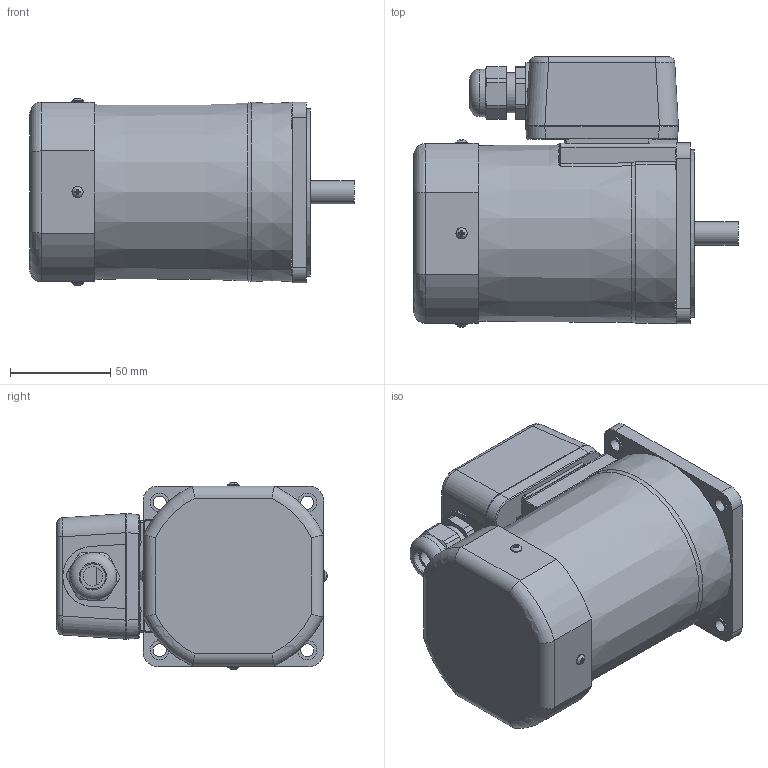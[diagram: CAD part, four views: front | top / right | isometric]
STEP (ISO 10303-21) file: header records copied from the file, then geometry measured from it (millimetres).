
FILE_DESCRIPTION((''),'2;1');
FILE_NAME('D:\김성묵\업무폴더\개발 파일\프로젝트 개발 AB등급\AC표준형 개발자료\90각 이하 표준형 개발\도면작성 자료\3D 도면\홈페이지용 3D 파일\150W MOTOR\S9I150G-T.stp','2015-03-26T20:04:14',('smkim'),(''),'Autodesk Inventor 2012','Autodesk Inventor 2012','');
FILE_SCHEMA(('AUTOMOTIVE_DESIGN { 1 0 10303 214 1 1 1 1 }'));
Length unit declared in the file: millimetre
Products named in the file (7): S9I150G-T; S9I90GㅁTCE; S9I150G; FAN COVER; 552300620; 25W_T_BOX
Assembly tree (9 placements, depth 3):
  S9I150G-T
    S9I90GㅁTCE
    S9I150G
    FAN COVER
      FAN COVER
      552300620  x4
    25W_T_BOX
Bounding box: 161.6 x 134.75 x 93.49 mm (x, y, z)
Volume: 1169662 mm3; surface area: 117364.9 mm2
Topology: 8 solids, 15 shells, 494 faces, 1183 edges, 754 vertices
Faces by surface type: plane 262, cylinder 131, bspline 55, torus 33, cone 13
Full cylindrical faces by diameter (mm): 2.55 x2, 3 x8, 3.5 x4, 5.6 x8, 6.3 x4, 6.5 x4, 7 x1, 9 x1, 9.5 x4, 11.5 x1, 12.5 x1, 15 x1, 20 x2, 21 x1, 23.6 x1, 40 x1, 83.5 x1, 86 x1
Entity records: 14578 total; most frequent: CARTESIAN_POINT 4601, ORIENTED_EDGE 1898, DIRECTION 1888, EDGE_CURVE 949, AXIS2_PLACEMENT_3D 700, VERTEX_POINT 644, EDGE_LOOP 543, VECTOR 488
